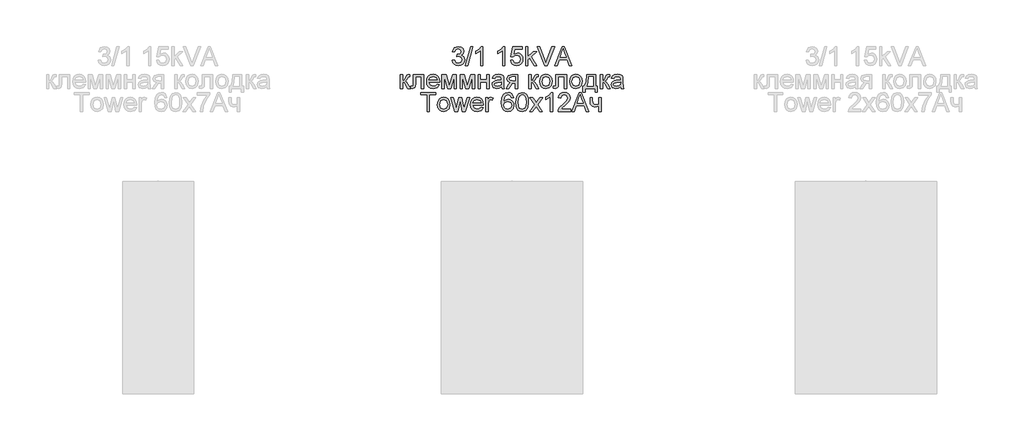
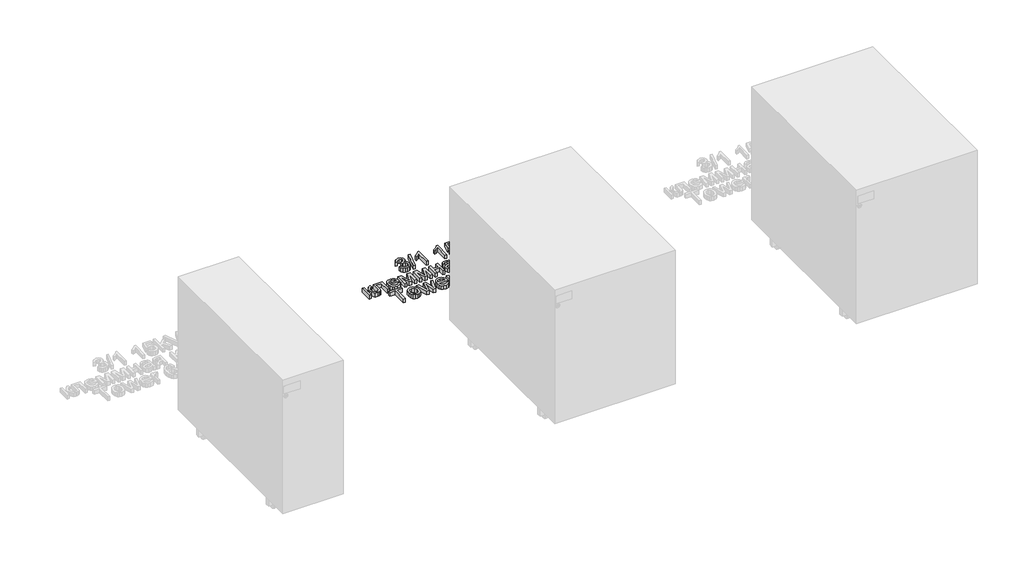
# One storey, part 44 of 74: 1 proxy.
"""IFC4 building model written with IfcOpenShell, lengths in millimetres."""

import ifcopenshell
import ifcopenshell.guid

model = None  # the IFC model being written
_history = None  # IfcOwnerHistory: only IFC2X3 demands one
_inside = {}  # id of a spatial element -> (the spatial element, [elements in it])
_under = {}  # id of a project, library or spatial element -> (it, [spatial elements below it])
_declared = {}  # id of a project -> (the project, [libraries it declares])
_typed = {}  # id of a type object -> (the type object, [elements of that type])
_made_of = {}  # id of a material, layer set ... -> (it, [elements and type objects made of it])


def new_model(schema):
    """Start an empty IFC model of exactly this schema.

    Asked for "IFC4X3", IfcOpenShell would pick the latest addendum, in which some entities
    have other attributes; the version numbers below select the first issue.
    IFC2X3 requires an IfcOwnerHistory on every rooted entity: one is made here for all.
    """
    global model, _history
    if schema == "IFC4X3":
        model = ifcopenshell.file(schema_version=(4, 3, 0, 0))
    else:
        model = ifcopenshell.file(schema=schema)
    _inside.clear()
    _under.clear()
    _declared.clear()
    _typed.clear()
    _made_of.clear()
    _history = None
    if model.schema == "IFC2X3":
        org = make("IfcOrganization", Name="unknown")
        user = make(
            "IfcPersonAndOrganization",
            ThePerson=make("IfcPerson", FamilyName="unknown"),
            TheOrganization=org,
        )
        app = make(
            "IfcApplication",
            ApplicationDeveloper=org,
            Version="unknown",
            ApplicationFullName="unknown",
            ApplicationIdentifier="unknown",
        )
        _history = make(
            "IfcOwnerHistory",
            OwningUser=user,
            OwningApplication=app,
            ChangeAction="ADDED",
            CreationDate=0,
        )
    return model


def make(cls, **values):
    """One entity of the class cls with the attributes given. An attribute that is None is left unset."""
    return model.create_entity(
        cls, **{name: value for name, value in values.items() if value is not None}
    )


def rooted(cls, **values):
    """An entity with a GlobalId (a new one), such as an element, a storey or a relation."""
    return make(cls, GlobalId=ifcopenshell.guid.new(), OwnerHistory=_history, **values)


def si_unit(unit_type, name, prefix=None):
    """IfcSIUnit, for example si_unit("LENGTHUNIT", "METRE", prefix="MILLI")."""
    return make("IfcSIUnit", UnitType=unit_type, Prefix=prefix, Name=name)


def assignment(units):
    """IfcUnitAssignment: the units of a project."""
    return None if units is None else make("IfcUnitAssignment", Units=units)


def point(xyz):
    """IfcCartesianPoint."""
    return None if xyz is None else make("IfcCartesianPoint", Coordinates=xyz)


def direction(xyz):
    """IfcDirection."""
    return None if xyz is None else make("IfcDirection", DirectionRatios=xyz)


def frame(location, z_axis=None, x_axis=None):
    """IfcAxis2Placement3D, a coordinate frame: its origin and axes. An axis left out is left unset."""
    return make(
        "IfcAxis2Placement3D",
        Location=point(location),
        Axis=direction(z_axis),
        RefDirection=direction(x_axis),
    )


def origin():
    """The frame at (0, 0, 0) with its axes left unset."""
    return frame((0.0, 0.0, 0.0))


def origin_with_axes():
    """The frame at (0, 0, 0) with the z axis (0, 0, 1) and the x axis (1, 0, 0) written out."""
    return frame((0.0, 0.0, 0.0), z_axis=(0.0, 0.0, 1.0), x_axis=(1.0, 0.0, 0.0))


def place(relative_to, where):
    """IfcLocalPlacement: puts the frame where relative to a parent placement (None: the world)."""
    return make(
        "IfcLocalPlacement", PlacementRelTo=relative_to, RelativePlacement=where
    )


def context(
    kind, dimensions, precision=None, world=None, true_north=None, identifier=None
):
    """IfcGeometricRepresentationContext, for example the 3D "Model" context."""
    return make(
        "IfcGeometricRepresentationContext",
        ContextIdentifier=identifier,
        ContextType=kind,
        CoordinateSpaceDimension=dimensions,
        Precision=precision,
        WorldCoordinateSystem=world,
        TrueNorth=true_north,
    )


def project(units=None, contexts=None):
    """IfcProject with its units and contexts."""
    return rooted(
        "IfcProject",
        Name="project",
        RepresentationContexts=contexts,
        UnitsInContext=assignment(units),
    )


def spatial(cls, under=None, at=None, **own):
    """A site, building, storey or space (cls), placed at a placement, below another one or the project."""
    s = rooted(cls, ObjectPlacement=at, **own)
    if under is not None:
        _under.setdefault(under.id(), (under, []))[1].append(s)
    return s


def polyline(points):
    """IfcPolyline through the points."""
    return make("IfcPolyline", Points=[point(p) for p in points])


def outline(outer, holes=None, kind="AREA"):
    """IfcArbitraryClosedProfileDef: a profile drawn as a closed curve; with holes, ...WithVoids."""
    if holes is None:
        return make("IfcArbitraryClosedProfileDef", ProfileType=kind, OuterCurve=outer)
    return make(
        "IfcArbitraryProfileDefWithVoids",
        ProfileType=kind,
        OuterCurve=outer,
        InnerCurves=holes,
    )


def extrude(swept, where, along, depth):
    """IfcExtrudedAreaSolid: the profile swept, set in the frame where, extruded along a direction by depth."""
    return make(
        "IfcExtrudedAreaSolid",
        SweptArea=swept,
        Position=where,
        ExtrudedDirection=direction(along),
        Depth=depth,
    )


def shape(context_of_items, identifier, shape_type, items):
    """IfcShapeRepresentation: the items that make up one representation, for example the "Body"."""
    return make(
        "IfcShapeRepresentation",
        ContextOfItems=context_of_items,
        RepresentationIdentifier=identifier,
        RepresentationType=shape_type,
        Items=items,
    )


def made_of(thing, what):
    """Note that an element or type object is made of a material, layer set ...; save() writes the relation."""
    if what is not None:
        _made_of.setdefault(what.id(), (what, []))[1].append(thing)
    return thing


def element(
    cls,
    number,
    at=None,
    inside=None,
    cuts=None,
    type_object=None,
    material=None,
    context=None,
    identifier="Body",
    shape_type=None,
    held_by="IfcProductDefinitionShape",
    body=None,
    shapes=None,
    **own,
):
    """One element of the class cls, such as IfcWall. Its Tag is "e" and its number.

    at: its placement. inside: the storey or other place that contains it. cuts: it is an
    opening in that element (IfcRelVoidsElement). A single representation is given by context,
    identifier, shape_type and body (its items); several are given by shapes. held_by: the class
    of the entity that holds the representations. save() writes the other relations.
    """
    e = rooted(cls, Tag="e%d" % number, ObjectPlacement=at, **own)
    if body is not None:
        shapes = [shape(context, identifier, shape_type, body)]
    if shapes is not None:
        e.Representation = make(held_by, Representations=shapes)
    if inside is not None:
        _inside.setdefault(inside.id(), (inside, []))[1].append(e)
    if cuts is not None:
        rooted(
            "IfcRelVoidsElement", RelatingBuildingElement=cuts, RelatedOpeningElement=e
        )
    if type_object is not None:
        _typed.setdefault(type_object.id(), (type_object, []))[1].append(e)
    return made_of(e, material)


def aggregate(whole, parts):
    """IfcRelAggregates: a whole, such as a stair, and the parts it consists of."""
    return rooted("IfcRelAggregates", RelatingObject=whole, RelatedObjects=parts)


def save(model, path):
    """Write the relations noted so far, then the file.

    IfcRelAggregates (storeys below a building ...), IfcRelContainedInSpatialStructure (elements
    in a storey), IfcRelDefinesByType, IfcRelAssociatesMaterial and IfcRelDeclares: one each for
    every whole, place, type object, material and project.
    """
    for whole, parts in _under.values():
        aggregate(whole, parts)
    for where, things in _inside.values():
        rooted(
            "IfcRelContainedInSpatialStructure",
            RelatedElements=things,
            RelatingStructure=where,
        )
    for kind, things in _typed.values():
        rooted("IfcRelDefinesByType", RelatedObjects=things, RelatingType=kind)
    for what, things in _made_of.values():
        rooted("IfcRelAssociatesMaterial", RelatedObjects=things, RelatingMaterial=what)
    for by, libraries in _declared.values():
        rooted("IfcRelDeclares", RelatingContext=by, RelatedDefinitions=libraries)
    model.write(path)


model = new_model("IFC4")

# Units and contexts
model_context = context("Model", 3, world=origin())
ifc_project = project(units=[si_unit("LENGTHUNIT", "METRE", prefix="MILLI")], contexts=[model_context])

# Site, building, storey
site = spatial("IfcSite", under=ifc_project)
building = spatial("IfcBuilding", under=site)
storey = spatial("IfcBuildingStorey", under=building, Name="Этаж 01", Elevation=0.0)

# Proxy
placement = place(None, origin())
element("IfcBuildingElementProxy", 1, Name="80 мм Arial", ObjectType="80 мм Arial", at=placement, inside=storey, context=model_context, shape_type="SweptSolid", body=[
    extrude(outline(polyline([(8598.3137414, -15105.2863601), (8608.3593724, -15104.0306562), (8613.9021278, -15114.6060373), (8624.2714949, -15117.8433988), (8636.475367, -15113.3895741), (8641.0076732, -15102.3629245), (8636.5146077, -15091.9739369), (8625.0955506, -15087.8634688), (8618.0518367, -15088.9622097), (8619.1701979, -15078.9165786), (8620.7790685, -15079.0343009), (8632.1785053, -15076.150106), (8637.2405615, -15067.2816974), (8633.5715518, -15059.423738), (8624.114532, -15056.3139089), (8614.5397899, -15059.4531685), (8609.6150762, -15068.8709476), (8599.5694452, -15067.6152437), (8607.7903816, -15051.8600842), (8623.7613652, -15046.2682778), (8635.8769456, -15049.0249403), (8644.3529468, -15056.5591635), (8647.2861926, -15066.6930862), (8644.5000996, -15075.9539023), (8636.2595429, -15082.6052088), (8647.2077111, -15089.4723394), (8651.0533042, -15102.5395078), (8649.1305076, -15112.330074), (8643.3621179, -15120.5117696), (8634.6555774, -15126.0447148), (8623.9183282, -15127.8890298), (8614.2062435, -15126.3144949), (8606.2992332, -15121.5908901), (8600.8006236, -15114.3656877), (8598.3137414, -15105.2863601)])), origin_with_axes(), (0.0, 0.0, 1.0), 20.0),
    extrude(outline(polyline([(8654.8204158, -15126.633326), (8677.4230856, -15046.2682778), (8686.487698, -15046.2682778), (8663.8850282, -15126.633326), (8654.8204158, -15126.633326)])), origin_with_axes(), (0.0, 0.0, 1.0), 20.0),
    extrude(outline(polyline([(8728.9069446, -15126.633326), (8718.8613135, -15126.633326), (8718.8613135, -15064.0050951), (8709.3454326, -15070.783934), (8698.7700515, -15075.8558004), (8698.7700515, -15066.3595399), (8713.4951415, -15056.9613812), (8722.4322214, -15046.2682778), (8728.9069446, -15046.2682778), (8728.9069446, -15126.633326)])), origin_with_axes(), (0.0, 0.0, 1.0), 20.0),
    extrude(outline(polyline([(8821.8290314, -15126.633326), (8811.7834004, -15126.633326), (8811.7834004, -15064.0050951), (8802.2675195, -15070.783934), (8791.6921384, -15075.8558004), (8791.6921384, -15066.3595399), (8806.4172284, -15056.9613812), (8815.3543083, -15046.2682778), (8821.8290314, -15046.2682778), (8821.8290314, -15126.633326)])), origin_with_axes(), (0.0, 0.0, 1.0), 20.0),
    extrude(outline(polyline([(8845.6874051, -15105.2863601), (8855.7330361, -15104.0306562), (8860.7950924, -15114.380403), (8871.291992, -15117.8433988), (8883.8882715, -15113.0265972), (8888.3813369, -15100.2439242), (8884.1727669, -15088.3147373), (8871.4489549, -15083.9393941), (8862.6295973, -15085.6856074), (8856.98874, -15090.2179135), (8846.943109, -15088.9622097), (8855.7330361, -15047.5239817), (8894.6598563, -15047.5239817), (8894.6598563, -15057.5696127), (8863.8558706, -15057.5696127), (8859.5590089, -15079.7013936), (8874.2546683, -15073.8937631), (8883.6405643, -15075.6939324), (8891.4323049, -15081.0944401), (8896.6783022, -15089.3251866), (8898.4269679, -15099.6160722), (8896.852433, -15109.6617032), (8892.1288282, -15118.2554267), (8883.0838362, -15125.480629), (8871.2527512, -15127.8890298), (8861.3861561, -15126.3414729), (8853.5257441, -15121.6988021), (8848.1374992, -15114.5005778), (8845.6874051, -15105.2863601)])), origin_with_axes(), (0.0, 0.0, 1.0), 20.0),
    extrude(outline(polyline([(8909.7283028, -15126.633326), (8909.7283028, -15046.2682778), (8919.7739338, -15046.2682778), (8919.7739338, -15089.452719), (8942.2981221, -15067.6152437), (8956.1893463, -15067.6152437), (8933.3904728, -15089.7274042), (8957.4450501, -15126.633326), (8945.712067, -15126.633326), (8926.1897958, -15096.712257), (8919.7739338, -15102.9319153), (8919.7739338, -15126.633326), (8909.7283028, -15126.633326)])), origin_with_axes(), (0.0, 0.0, 1.0), 20.0),
    extrude(outline(polyline([(8991.2313326, -15126.633326), (8959.2501245, -15046.2682778), (8970.0020889, -15046.2682778), (8991.4079159, -15104.1679988), (8995.7440184, -15117.2155469), (9000.0212597, -15104.1679988), (9021.4859479, -15046.2682778), (9032.2379123, -15046.2682778), (9001.6105099, -15126.633326), (8991.2313326, -15126.633326)])), origin_with_axes(), (0.0, 0.0, 1.0), 20.0),
    extrude(outline(polyline([(9032.2182919, -15126.633326), (9064.2976019, -15046.2682778), (9072.8520846, -15046.2682778), (9104.9313946, -15126.633326), (9094.3167727, -15126.633326), (9085.1148177, -15101.5192484), (9052.0152484, -15101.5192484), (9042.8329138, -15126.633326), (9032.2182919, -15126.633326)]), holes=[polyline([(9055.7038785, -15091.4736174), (9081.445808, -15091.4736174), (9074.2058903, -15071.7159017), (9068.5748432, -15056.3139089), (9063.5716481, -15069.9893089), (9055.7038785, -15091.4736174)])]), origin_with_axes(), (0.0, 0.0, 1.0), 20.0),
    extrude(outline(polyline([(8433.1886815, -15165.195098), (8478.3940211, -15165.195098), (8478.3940211, -15224.1543191), (8468.3483901, -15224.1543191), (8468.3483901, -15175.240729), (8443.2343126, -15175.240729), (8443.2343126, -15203.3959644), (8442.5574097, -15216.3846514), (8438.839349, -15221.8685457), (8430.0494219, -15224.2131802), (8421.8873467, -15223.7030505), (8421.8873467, -15214.1675492), (8426.3804121, -15214.1675492), (8430.9225285, -15213.5495075), (8432.737413, -15211.5874702), (8433.1886815, -15202.8269736), (8433.1886815, -15165.195098)])), origin_with_axes(), (0.0, 0.0, 1.0), 20.0),
    extrude(outline(polyline([(8379.1934148, -15165.195098), (8389.2390459, -15165.195098), (8389.2390459, -15190.3091756), (8395.9688338, -15188.5041012), (8401.4821587, -15177.9875813), (8406.0635158, -15168.9131587), (8410.1053126, -15165.9602926), (8417.4531423, -15165.195098), (8419.3759389, -15165.195098), (8419.3759389, -15175.2995902), (8416.6683274, -15175.240729), (8411.7632341, -15176.3002292), (8408.3100485, -15182.9122949), (8404.2584414, -15190.0639209), (8398.5783434, -15193.5661575), (8404.9157239, -15197.4755168), (8411.1353822, -15205.7111684), (8421.8873467, -15224.2131802), (8410.4682895, -15224.2131802), (8399.9321492, -15206.1035759), (8394.6346485, -15198.4418202), (8389.2390459, -15196.5876949), (8389.2390459, -15224.2131802), (8379.1934148, -15224.2131802), (8379.1934148, -15165.195098)])), origin_with_axes(), (0.0, 0.0, 1.0), 20.0),
    extrude(outline(polyline([(8534.7829733, -15206.633326), (8544.6324006, -15207.8890298), (8535.4206355, -15220.8580964), (8518.2626192, -15225.4688841), (8506.4756801, -15223.4798688), (8497.4061626, -15217.5128228), (8491.6230577, -15207.9552486), (8489.695356, -15195.1946485), (8491.642678, -15182.0048527), (8497.4846441, -15172.1407101), (8506.4315342, -15165.9897231), (8517.6936284, -15163.9393941), (8528.6050084, -15165.984818), (8537.3238116, -15172.1210897), (8543.0406979, -15181.9656119), (8544.9463266, -15195.1357873), (8544.8874655, -15197.8433988), (8499.740987, -15197.8433988), (8505.5191869, -15210.8909469), (8518.4588229, -15215.4232531), (8528.3082502, -15213.3238732), (8534.7829733, -15206.633326)]), holes=[polyline([(8499.740987, -15187.7977678), (8534.9006956, -15187.7977678), (8530.8785191, -15178.6939147), (8517.6543876, -15173.9850252), (8505.2837424, -15177.7423266), (8499.740987, -15187.7977678)])]), origin_with_axes(), (0.0, 0.0, 1.0), 20.0),
    extrude(outline(polyline([(8554.9919576, -15165.195098), (8572.2775063, -15165.195098), (8585.5997396, -15212.4409564), (8599.9618527, -15165.195098), (8616.5214476, -15165.195098), (8616.5214476, -15224.2131802), (8606.4758166, -15224.2131802), (8606.4758166, -15176.6926366), (8592.035222, -15224.2131802), (8578.8503313, -15224.2131802), (8565.0375886, -15174.4166734), (8565.0375886, -15224.2131802), (8554.9919576, -15224.2131802), (8554.9919576, -15165.195098)])), origin_with_axes(), (0.0, 0.0, 1.0), 20.0),
    extrude(outline(polyline([(8631.5898941, -15165.195098), (8648.8754428, -15165.195098), (8662.1976761, -15212.4409564), (8676.5597892, -15165.195098), (8693.1193841, -15165.195098), (8693.1193841, -15224.2131802), (8683.073753, -15224.2131802), (8683.073753, -15176.6926366), (8668.6331585, -15224.2131802), (8655.4482678, -15224.2131802), (8641.6355251, -15174.4166734), (8641.6355251, -15224.2131802), (8631.5898941, -15224.2131802), (8631.5898941, -15165.195098)])), origin_with_axes(), (0.0, 0.0, 1.0), 20.0),
    extrude(outline(polyline([(8708.1878306, -15165.195098), (8718.2334616, -15165.195098), (8718.2334616, -15187.7977678), (8744.603243, -15187.7977678), (8744.603243, -15165.195098), (8754.648874, -15165.195098), (8754.648874, -15224.2131802), (8744.603243, -15224.2131802), (8744.603243, -15197.8433988), (8718.2334616, -15197.8433988), (8718.2334616, -15224.2131802), (8708.1878306, -15224.2131802), (8708.1878306, -15165.195098)])), origin_with_axes(), (0.0, 0.0, 1.0), 20.0),
    extrude(outline(polyline([(8807.3884369, -15216.678957), (8797.6469216, -15223.4872264), (8786.885147, -15225.4688841), (8772.2973996, -15220.7011335), (8767.2059128, -15208.5168818), (8769.1287094, -15200.5706307), (8774.1809554, -15194.802241), (8781.2148592, -15191.5060183), (8789.9066844, -15189.9952496), (8807.3295757, -15186.5420639), (8807.3884369, -15184.3053414), (8804.6219643, -15176.8888404), (8793.5168331, -15173.9850252), (8783.3534798, -15175.9176319), (8778.5072477, -15182.7749523), (8768.4616167, -15181.5192484), (8772.8075293, -15171.7090619), (8781.5582157, -15165.9602926), (8794.8117777, -15163.9393941), (8806.9862192, -15165.7248481), (8813.86316, -15170.2081033), (8816.9435585, -15177.026183), (8817.4340679, -15185.8161101), (8817.4340679, -15198.3142878), (8817.9441976, -15215.7666096), (8819.9454756, -15224.2131802), (8809.8998446, -15224.2131802), (8807.3884369, -15216.678957)]), holes=[polyline([(8807.3884369, -15196.5876949), (8791.1820087, -15199.6680935), (8782.5392344, -15201.2965845), (8778.6249699, -15203.9453348), (8777.2515438, -15207.8105483), (8780.2436507, -15213.2453917), (8789.0237677, -15215.4232531), (8799.1871209, -15213.0197574), (8805.7403255, -15207.2023168), (8807.3295757, -15199.432649), (8807.3884369, -15196.5876949)])]), origin_with_axes(), (0.0, 0.0, 1.0), 20.0),
    extrude(outline(polyline([(8876.4521501, -15165.195098), (8876.4521501, -15224.2131802), (8866.4065191, -15224.2131802), (8866.4065191, -15201.6105105), (8860.932435, -15201.6105105), (8853.4766932, -15202.8858347), (8846.47222, -15211.4599377), (8838.4671078, -15224.2131802), (8826.8518469, -15224.2131802), (8836.9367187, -15208.0852336), (8845.4912014, -15199.7269546), (8833.797459, -15193.6250186), (8829.9911066, -15182.2452022), (8835.1905055, -15169.9236079), (8850.2393317, -15165.195098), (8876.4521501, -15165.195098)]), holes=[polyline([(8866.4065191, -15175.240729), (8853.1627672, -15175.240729), (8842.4402334, -15177.5657432), (8840.0367377, -15183.0103968), (8843.578215, -15189.4949301), (8856.1254436, -15191.5648794), (8866.4065191, -15191.5648794), (8866.4065191, -15175.240729)])]), origin_with_axes(), (0.0, 0.0, 1.0), 20.0),
    extrude(outline(polyline([(8922.9131935, -15165.195098), (8932.9588245, -15165.195098), (8932.9588245, -15190.3091756), (8939.6886125, -15188.5041012), (8945.2019373, -15177.9875813), (8949.7832945, -15168.9131587), (8953.8250913, -15165.9602926), (8961.172921, -15165.195098), (8963.0957176, -15165.195098), (8963.0957176, -15175.2995902), (8960.3881061, -15175.240729), (8955.4830128, -15176.3002292), (8952.0298272, -15182.9122949), (8947.9782201, -15190.0639209), (8942.2981221, -15193.5661575), (8948.6355026, -15197.4755168), (8954.8551609, -15205.7111684), (8965.6071253, -15224.2131802), (8954.1880682, -15224.2131802), (8943.6519279, -15206.1035759), (8938.3544271, -15198.4418202), (8932.9588245, -15196.5876949), (8932.9588245, -15224.2131802), (8922.9131935, -15224.2131802), (8922.9131935, -15165.195098)])), origin_with_axes(), (0.0, 0.0, 1.0), 20.0),
    extrude(outline(polyline([(8969.374237, -15194.7041391), (8971.5471933, -15180.4744636), (8978.0660622, -15170.4729784), (8986.1202254, -15165.5727902), (8995.7636388, -15163.9393941), (9006.3169469, -15165.9284095), (9014.7463497, -15171.8954554), (9020.2719373, -15181.3696431), (9022.1137998, -15193.8800835), (9018.8568179, -15211.7542433), (9009.3703675, -15221.8685457), (8995.7636388, -15225.4688841), (8985.0827982, -15223.4872264), (8976.6632056, -15217.5422534), (8971.1964791, -15207.8694095), (8969.374237, -15194.7041391)]), holes=[polyline([(8979.419868, -15194.6845188), (8984.0698964, -15210.2532848), (8995.7636388, -15215.4232531), (9007.4181404, -15210.2238542), (9012.0681688, -15194.3705928), (9007.3887098, -15179.1549935), (8995.7636388, -15173.9850252), (8984.0698964, -15179.1353731), (8979.419868, -15194.6845188)])]), origin_with_axes(), (0.0, 0.0, 1.0), 20.0),
    extrude(outline(polyline([(9038.4379502, -15165.195098), (9083.6432898, -15165.195098), (9083.6432898, -15224.1543191), (9073.5976588, -15224.1543191), (9073.5976588, -15175.240729), (9048.4835812, -15175.240729), (9048.4835812, -15203.3959644), (9047.8066783, -15216.3846514), (9044.0886176, -15221.8685457), (9035.2986905, -15224.2131802), (9027.1366153, -15223.7030505), (9027.1366153, -15214.1675492), (9031.6296807, -15214.1675492), (9036.1717971, -15213.5495075), (9037.9866816, -15211.5874702), (9038.4379502, -15202.8269736), (9038.4379502, -15165.195098)])), origin_with_axes(), (0.0, 0.0, 1.0), 20.0),
    extrude(outline(polyline([(9096.2003285, -15194.7041391), (9098.3732849, -15180.4744636), (9104.8921538, -15170.4729784), (9112.946317, -15165.5727902), (9122.5897303, -15163.9393941), (9133.1430385, -15165.9284095), (9141.5724413, -15171.8954554), (9147.0980288, -15181.3696431), (9148.9398914, -15193.8800835), (9145.6829094, -15211.7542433), (9136.1964591, -15221.8685457), (9122.5897303, -15225.4688841), (9111.9088897, -15223.4872264), (9103.4892971, -15217.5422534), (9098.0225707, -15207.8694095), (9096.2003285, -15194.7041391)]), holes=[polyline([(9106.2459596, -15194.6845188), (9110.895988, -15210.2532848), (9122.5897303, -15215.4232531), (9134.2442319, -15210.2238542), (9138.8942603, -15194.3705928), (9134.2148014, -15179.1549935), (9122.5897303, -15173.9850252), (9110.895988, -15179.1353731), (9106.2459596, -15194.6845188)])]), origin_with_axes(), (0.0, 0.0, 1.0), 20.0),
    extrude(outline(polyline([(9169.0311534, -15165.195098), (9206.7022697, -15165.195098), (9206.7022697, -15214.1675492), (9214.236493, -15214.1675492), (9214.236493, -15240.5373306), (9204.1908619, -15240.5373306), (9204.1908619, -15224.2131802), (9162.752634, -15224.2131802), (9162.752634, -15240.5373306), (9152.707003, -15240.5373306), (9152.707003, -15214.1675492), (9158.9855224, -15214.1675492), (9166.7453799, -15195.0082549), (9169.0311534, -15165.195098)]), holes=[polyline([(9177.8210805, -15175.240729), (9175.4666358, -15198.1278942), (9170.2868573, -15214.1675492), (9196.6566387, -15214.1675492), (9196.6566387, -15175.240729), (9177.8210805, -15175.240729)])]), origin_with_axes(), (0.0, 0.0, 1.0), 20.0),
    extrude(outline(polyline([(9225.5378279, -15165.195098), (9235.5834589, -15165.195098), (9235.5834589, -15190.3091756), (9242.3132468, -15188.5041012), (9247.8265717, -15177.9875813), (9252.4079288, -15168.9131587), (9256.4497256, -15165.9602926), (9263.7975554, -15165.195098), (9265.7203519, -15165.195098), (9265.7203519, -15175.2995902), (9263.0127404, -15175.240729), (9258.1076472, -15176.3002292), (9254.6544615, -15182.9122949), (9250.6028545, -15190.0639209), (9244.9227565, -15193.5661575), (9251.260137, -15197.4755168), (9257.4797952, -15205.7111684), (9268.2317597, -15224.2131802), (9256.8127025, -15224.2131802), (9246.2765622, -15206.1035759), (9240.9790615, -15198.4418202), (9235.5834589, -15196.5876949), (9235.5834589, -15224.2131802), (9225.5378279, -15224.2131802), (9225.5378279, -15165.195098)])), origin_with_axes(), (0.0, 0.0, 1.0), 20.0),
    extrude(outline(polyline([(9312.1813954, -15216.678957), (9302.4398801, -15223.4872264), (9291.6781055, -15225.4688841), (9277.0903581, -15220.7011335), (9271.9988713, -15208.5168818), (9273.9216679, -15200.5706307), (9278.9739139, -15194.802241), (9286.0078177, -15191.5060183), (9294.6996429, -15189.9952496), (9312.1225342, -15186.5420639), (9312.1813954, -15184.3053414), (9309.4149228, -15176.8888404), (9298.3097916, -15173.9850252), (9288.1464383, -15175.9176319), (9283.3002062, -15182.7749523), (9273.2545752, -15181.5192484), (9277.6004878, -15171.7090619), (9286.3511742, -15165.9602926), (9299.6047362, -15163.9393941), (9311.7791777, -15165.7248481), (9318.6561185, -15170.2081033), (9321.736517, -15177.026183), (9322.2270264, -15185.8161101), (9322.2270264, -15198.3142878), (9322.7371561, -15215.7666096), (9324.7384341, -15224.2131802), (9314.6928031, -15224.2131802), (9312.1813954, -15216.678957)]), holes=[polyline([(9312.1813954, -15196.5876949), (9295.9749672, -15199.6680935), (9287.3321929, -15201.2965845), (9283.4179284, -15203.9453348), (9282.0445023, -15207.8105483), (9285.0366092, -15213.2453917), (9293.8167262, -15215.4232531), (9303.9800794, -15213.0197574), (9310.533284, -15207.2023168), (9312.1225342, -15199.432649), (9312.1813954, -15196.5876949)])]), origin_with_axes(), (0.0, 0.0, 1.0), 20.0),
    extrude(outline(polyline([(8492.2067638, -15321.7930345), (8492.2067638, -15251.4736174), (8465.8369823, -15251.4736174), (8465.8369823, -15241.4279864), (8528.6221762, -15241.4279864), (8528.6221762, -15251.4736174), (8502.2523948, -15251.4736174), (8502.2523948, -15321.7930345), (8492.2067638, -15321.7930345)])), origin_with_axes(), (0.0, 0.0, 1.0), 20.0),
    extrude(outline(polyline([(8536.1563995, -15292.2839934), (8538.3293558, -15278.0543178), (8544.8482247, -15268.0528327), (8552.9023879, -15263.1526445), (8562.5458012, -15261.5192484), (8573.0991094, -15263.5082637), (8581.5285122, -15269.4753097), (8587.0540998, -15278.9494974), (8588.8959623, -15291.4599377), (8585.6389803, -15309.3340976), (8576.15253, -15319.4483999), (8562.5458012, -15323.0487384), (8551.8649606, -15321.0670807), (8543.445368, -15315.1221077), (8537.9786416, -15305.4492637), (8536.1563995, -15292.2839934)]), holes=[polyline([(8546.2020305, -15292.264373), (8550.8520589, -15307.8331391), (8562.5458012, -15313.0031074), (8574.2003028, -15307.8037085), (8578.8503313, -15291.9504471), (8574.1708723, -15276.7348477), (8562.5458012, -15271.5648794), (8550.8520589, -15276.7152274), (8546.2020305, -15292.264373)])]), origin_with_axes(), (0.0, 0.0, 1.0), 20.0),
    extrude(outline(polyline([(8609.9878633, -15321.7930345), (8592.035222, -15262.7749523), (8602.4732604, -15262.7749523), (8612.6562341, -15297.208707), (8615.6973919, -15309.510681), (8618.1891793, -15297.6599756), (8626.2923934, -15262.7749523), (8638.2608209, -15262.7749523), (8646.3247943, -15297.5618738), (8648.5418964, -15308.2942178), (8651.7203969, -15296.9732626), (8661.9229909, -15262.7749523), (8672.4002701, -15262.7749523), (8654.3102861, -15321.7930345), (8642.1652752, -15321.7930345), (8634.4544686, -15287.1826964), (8632.217746, -15276.3914912), (8622.2702169, -15321.7930345), (8609.9878633, -15321.7930345)])), origin_with_axes(), (0.0, 0.0, 1.0), 20.0),
    extrude(outline(polyline([(8720.6271471, -15304.2131802), (8730.4765744, -15305.4688841), (8721.2648092, -15318.4379507), (8704.106793, -15323.0487384), (8692.3198539, -15321.0597231), (8683.2503364, -15315.0926771), (8677.4672314, -15305.5351029), (8675.5395298, -15292.7745027), (8677.4868518, -15279.5847069), (8683.3288179, -15269.7205644), (8692.275708, -15263.5695774), (8703.5378022, -15261.5192484), (8714.4491821, -15263.5646723), (8723.1679854, -15269.700944), (8728.8848716, -15279.5454662), (8730.7905004, -15292.7156416), (8730.7316392, -15295.4232531), (8685.5851608, -15295.4232531), (8691.3633607, -15308.4708012), (8704.3029967, -15313.0031074), (8714.152424, -15310.9037275), (8720.6271471, -15304.2131802)]), holes=[polyline([(8685.5851608, -15285.3776221), (8720.7448694, -15285.3776221), (8716.7226929, -15276.273769), (8703.4985614, -15271.5648794), (8691.1279162, -15275.3221809), (8685.5851608, -15285.3776221)])]), origin_with_axes(), (0.0, 0.0, 1.0), 20.0),
    extrude(outline(polyline([(8740.8361314, -15321.7930345), (8740.8361314, -15262.7749523), (8749.6260585, -15262.7749523), (8749.6260585, -15271.5060183), (8755.8653372, -15263.4616654), (8762.1438565, -15261.5192484), (8772.2287283, -15264.6192674), (8768.8736445, -15273.6250186), (8761.8103102, -15271.5648794), (8756.1302122, -15273.5465371), (8752.5102534, -15279.0402416), (8750.8817624, -15290.7732247), (8750.8817624, -15321.7930345), (8740.8361314, -15321.7930345)])), origin_with_axes(), (0.0, 0.0, 1.0), 20.0),
    extrude(outline(polyline([(8858.8722958, -15262.7749523), (8848.8266648, -15264.0306562), (8845.0203124, -15255.6527569), (8834.955061, -15251.4736174), (8825.8904487, -15253.9065437), (8819.0331283, -15263.0398273), (8816.178364, -15280.9434178), (8825.0369624, -15272.9284954), (8836.0145612, -15270.3091756), (8845.2949976, -15272.0995346), (8853.0842857, -15277.4706117), (8858.3670712, -15285.6768328), (8860.1279997, -15295.9726235), (8856.8121566, -15309.8344171), (8847.6886832, -15319.6446037), (8834.5234128, -15323.0487384), (8823.1264286, -15320.7923955), (8814.0495535, -15314.0233668), (8808.1119381, -15302.0745596), (8806.132733, -15284.2788812), (8808.3302148, -15264.2710057), (8814.9226601, -15250.5907006), (8823.9235063, -15243.7186649), (8835.582913, -15241.4279864), (8844.3973656, -15242.8455583), (8851.4557948, -15247.0982742), (8858.8722958, -15262.7749523)]), holes=[polyline([(8816.178364, -15295.8156606), (8818.5033782, -15304.517296), (8824.6837957, -15310.8350561), (8833.7385979, -15313.0031074), (8845.579493, -15308.5100419), (8850.0823687, -15296.3061699), (8845.6383542, -15284.6222377), (8833.3265701, -15280.3548066), (8821.1717489, -15284.6222377), (8816.178364, -15295.8156606)])]), origin_with_axes(), (0.0, 0.0, 1.0), 20.0),
    extrude(outline(polyline([(8868.9179268, -15282.2579828), (8871.870793, -15259.1353731), (8880.6410997, -15245.8033296), (8895.2877082, -15241.4279864), (8907.0206913, -15244.0178756), (8915.1239054, -15251.4834276), (8919.832795, -15263.3733737), (8921.6574897, -15282.2579828), (8918.7340541, -15305.2824906), (8909.9931779, -15318.6439646), (8895.2877082, -15323.0487384), (8884.8496698, -15321.135752), (8876.923039, -15315.3967929), (8870.9192049, -15301.8047794), (8868.9179268, -15282.2579828)]), holes=[polyline([(8878.9635578, -15282.2383624), (8880.1407802, -15298.0401204), (8883.6724474, -15307.1856668), (8895.2877082, -15313.0031074), (8906.9029691, -15307.1660464), (8910.4346363, -15298.0155949), (8911.6118586, -15282.2383624), (8910.473877, -15266.7922237), (8907.0599321, -15257.5755534), (8901.8114823, -15252.9991014), (8895.169986, -15251.4736174), (8883.8294104, -15256.8495996), (8880.180021, -15266.6401658), (8878.9635578, -15282.2383624)])]), origin_with_axes(), (0.0, 0.0, 1.0), 20.0),
    extrude(outline(polyline([(8926.6803052, -15321.7930345), (8948.1449933, -15292.1270304), (8927.936009, -15262.7749523), (8940.0221588, -15262.7749523), (8949.7734843, -15276.9016209), (8954.3254108, -15283.5725478), (8958.2691058, -15278.118084), (8969.374237, -15262.7749523), (8981.4603868, -15262.7749523), (8960.2311431, -15292.1270304), (8980.6755719, -15321.7930345), (8968.589422, -15321.7930345), (8956.2874481, -15303.9581154), (8954.0311052, -15300.7011335), (8938.766455, -15321.7930345), (8926.6803052, -15321.7930345)])), origin_with_axes(), (0.0, 0.0, 1.0), 20.0),
    extrude(outline(polyline([(9024.6252076, -15321.7930345), (9014.5795765, -15321.7930345), (9014.5795765, -15259.1648037), (9005.0636956, -15265.9436426), (8994.4883145, -15271.015509), (8994.4883145, -15261.5192484), (9009.2134045, -15252.1210897), (9018.1504844, -15241.4279864), (9024.6252076, -15241.4279864), (9024.6252076, -15321.7930345)])), origin_with_axes(), (0.0, 0.0, 1.0), 20.0),
    extrude(outline(polyline([(9099.9674402, -15311.7474035), (9099.9674402, -15321.7930345), (9047.2278773, -15321.7930345), (9048.3069979, -15314.8670428), (9054.4089339, -15304.2033701), (9066.985593, -15292.5586786), (9084.3300028, -15275.8225004), (9088.6661053, -15264.442684), (9084.5752575, -15255.2309189), (9073.8919643, -15251.4736174), (9062.7574026, -15255.1426272), (9058.5292122, -15265.2863601), (9048.4835812, -15264.0306562), (9050.91896, -15254.3136664), (9056.1845776, -15247.2159965), (9064.0057489, -15242.8749889), (9074.1077885, -15241.4279864), (9084.2834044, -15243.036857), (9092.0898604, -15247.8634688), (9097.0562673, -15255.0739559), (9098.7117363, -15263.8344524), (9096.9262823, -15273.3601436), (9090.9911195, -15283.2095709), (9076.5995758, -15296.9732626), (9065.0431761, -15306.6362963), (9060.5108699, -15311.7474035), (9099.9674402, -15311.7474035)])), origin_with_axes(), (0.0, 0.0, 1.0), 20.0),
    extrude(outline(polyline([(9104.4212649, -15321.7930345), (9136.5005748, -15241.4279864), (9145.0550575, -15241.4279864), (9177.1343675, -15321.7930345), (9166.5197456, -15321.7930345), (9157.3177907, -15296.678957), (9124.2182213, -15296.678957), (9115.0358867, -15321.7930345), (9104.4212649, -15321.7930345)]), holes=[polyline([(9127.9068514, -15286.633326), (9153.6487809, -15286.633326), (9146.4088632, -15266.8756103), (9140.7778162, -15251.4736174), (9135.774621, -15265.1490174), (9127.9068514, -15286.633326)])]), origin_with_axes(), (0.0, 0.0, 1.0), 20.0),
    extrude(outline(polyline([(9182.843896, -15262.7749523), (9192.8895271, -15262.7749523), (9192.8895271, -15274.0959076), (9193.7037725, -15284.7105294), (9197.618037, -15290.4592987), (9205.3877047, -15292.9118453), (9219.2593085, -15289.8706875), (9219.2593085, -15262.7749523), (9229.3049395, -15262.7749523), (9229.3049395, -15321.7930345), (9219.2593085, -15321.7930345), (9219.2593085, -15299.5042907), (9202.6997136, -15302.9574764), (9191.310087, -15299.3571379), (9184.6097296, -15290.5377802), (9182.843896, -15279.059862), (9182.843896, -15262.7749523)])), origin_with_axes(), (0.0, 0.0, 1.0), 20.0),
])

save(model, "model.ifc")
